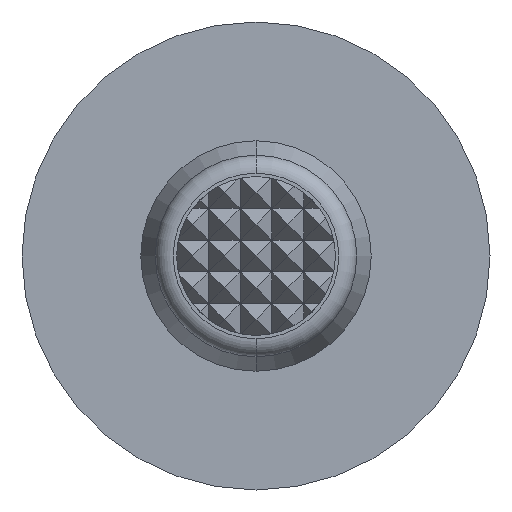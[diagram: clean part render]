
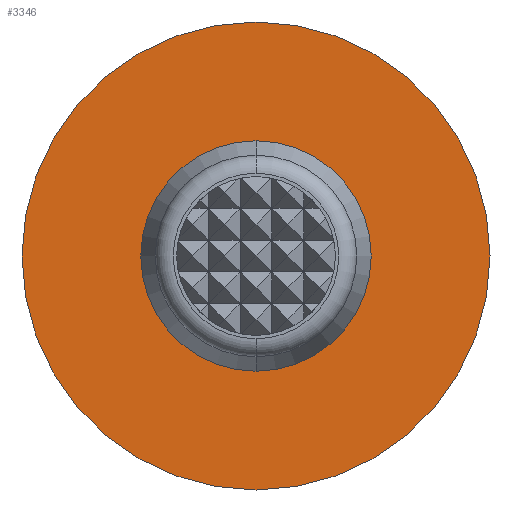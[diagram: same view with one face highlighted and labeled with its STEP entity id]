
A CAD part, left-side view. The second image highlights one B-rep face of the part: STEP entity #3346.
In plain terms, the highlighted planar face has unit normal (-1, 0, 0).
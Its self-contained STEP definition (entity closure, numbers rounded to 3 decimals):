
#836=CARTESIAN_POINT('',(-9.807,0.,0.));
#837=DIRECTION('',(-1.,0.,0.));
#838=DIRECTION('',(0.,0.,1.));
#839=AXIS2_PLACEMENT_3D('',#836,#837,#838);
#841=CARTESIAN_POINT('',(-9.807,0.,0.));
#842=DIRECTION('',(1.,0.,0.));
#843=DIRECTION('',(0.,0.,1.));
#844=AXIS2_PLACEMENT_3D('',#841,#842,#843);
#846=CARTESIAN_POINT('',(-9.807,0.,0.));
#847=DIRECTION('',(1.,0.,0.));
#848=DIRECTION('',(0.,0.,1.));
#849=AXIS2_PLACEMENT_3D('',#846,#847,#848);
#855=CARTESIAN_POINT('',(-9.807,0.,0.));
#856=DIRECTION('',(-1.,0.,0.));
#857=DIRECTION('',(0.,0.,1.));
#858=AXIS2_PLACEMENT_3D('',#855,#856,#857);
#1709=CARTESIAN_POINT('',(-9.807,0.,1.6));
#1710=VERTEX_POINT('',#1709);
#1711=CARTESIAN_POINT('',(-9.807,0.,3.25));
#1713=VERTEX_POINT('',#1711);
#1727=CARTESIAN_POINT('',(-9.807,0.,-1.6));
#1728=VERTEX_POINT('',#1727);
#1729=CARTESIAN_POINT('',(-9.807,0.,-3.25));
#1731=VERTEX_POINT('',#1729);
#3331=CARTESIAN_POINT('',(-9.807,0.,0.));
#3332=DIRECTION('',(1.,0.,0.));
#3333=DIRECTION('',(0.,0.,1.));
#3334=AXIS2_PLACEMENT_3D('',#3331,#3332,#3333);
#3335=PLANE('',#3334);
#3337=ORIENTED_EDGE('',*,*,#3336,.T.);
#3339=ORIENTED_EDGE('',*,*,#3338,.F.);
#3340=EDGE_LOOP('',(#3337,#3339));
#3341=FACE_OUTER_BOUND('',#3340,.F.);
#3342=ORIENTED_EDGE('',*,*,#3313,.T.);
#3343=ORIENTED_EDGE('',*,*,#3324,.F.);
#3344=EDGE_LOOP('',(#3342,#3343));
#3345=FACE_BOUND('',#3344,.F.);
#3346=ADVANCED_FACE('',(#3341,#3345),#3335,.F.);
#840=CIRCLE('',#839,1.6);
#845=CIRCLE('',#844,1.6);
#850=CIRCLE('',#849,3.25);
#859=CIRCLE('',#858,3.25);
#3313=EDGE_CURVE('',#1710,#1728,#840,.T.);
#3324=EDGE_CURVE('',#1710,#1728,#845,.T.);
#3336=EDGE_CURVE('',#1713,#1731,#850,.T.);
#3338=EDGE_CURVE('',#1713,#1731,#859,.T.);
